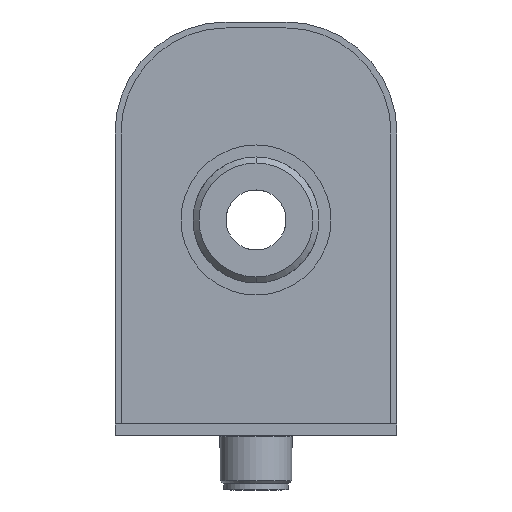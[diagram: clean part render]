
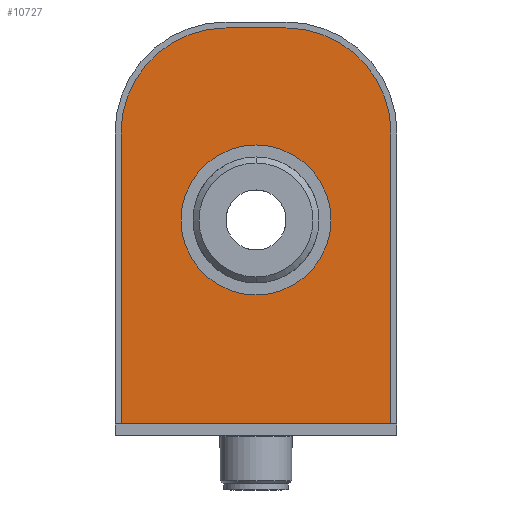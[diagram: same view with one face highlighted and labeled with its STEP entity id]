
A CAD part, left-side view. The second image highlights one B-rep face of the part: STEP entity #10727.
In plain terms, the highlighted planar face has unit normal (-1, 0, 0) as drawn and (0, 0, -1) by its records, which use the part's own axes.
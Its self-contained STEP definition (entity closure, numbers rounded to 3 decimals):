
#36 = EDGE_LOOP ( 'NONE', ( #11896, #467, #14205, #10215, #10618, #1742 ) ) ;
#135 = DIRECTION ( 'NONE',  ( 1., 0., 0. ) ) ;
#261 = AXIS2_PLACEMENT_3D ( 'NONE', #14334, #7231, #135 ) ;
#264 = VECTOR ( 'NONE', #10334, 1000. ) ;
#293 = EDGE_CURVE ( 'NONE', #1329, #11575, #7627, .T. ) ;
#467 = ORIENTED_EDGE ( 'NONE', *, *, #5587, .F. ) ;
#1170 = EDGE_CURVE ( 'NONE', #12105, #12202, #14936, .T. ) ;
#1329 = VERTEX_POINT ( 'NONE', #6792 ) ;
#1627 = DIRECTION ( 'NONE',  ( 0., 0., 1. ) ) ;
#1742 = ORIENTED_EDGE ( 'NONE', *, *, #3532, .F. ) ;
#2235 = EDGE_CURVE ( 'NONE', #12202, #6216, #8997, .T. ) ;
#2442 = DIRECTION ( 'NONE',  ( 0., 0., 1. ) ) ;
#2602 = EDGE_CURVE ( 'NONE', #11575, #1329, #7683, .T. ) ;
#3040 = CIRCLE ( 'NONE', #261, 17.5 ) ;
#3066 = CARTESIAN_POINT ( 'NONE',  ( -17.5, 66., 0. ) ) ;
#3083 = DIRECTION ( 'NONE',  ( 0., 0., 1. ) ) ;
#3210 = CARTESIAN_POINT ( 'NONE',  ( 27.5, 66., 0. ) ) ;
#3374 = AXIS2_PLACEMENT_3D ( 'NONE', #8746, #1627, #9954 ) ;
#3532 = EDGE_CURVE ( 'NONE', #8190, #14489, #7644, .T. ) ;
#3649 = CARTESIAN_POINT ( 'NONE',  ( 27.5, 17.5, 0. ) ) ;
#3982 = DIRECTION ( 'NONE',  ( 1., 0., 0. ) ) ;
#4495 = CARTESIAN_POINT ( 'NONE',  ( 5., 32., 0. ) ) ;
#4875 = VECTOR ( 'NONE', #3982, 1000. ) ;
#5125 = CARTESIAN_POINT ( 'NONE',  ( 0., 0., 0. ) ) ;
#5442 = CARTESIAN_POINT ( 'NONE',  ( -17.5, 66., 0. ) ) ;
#5587 = EDGE_CURVE ( 'NONE', #6216, #14123, #6886, .T. ) ;
#5701 = CARTESIAN_POINT ( 'NONE',  ( 27.5, 17.5, 0. ) ) ;
#5864 = VECTOR ( 'NONE', #9314, 1000. ) ;
#6216 = VERTEX_POINT ( 'NONE', #5442 ) ;
#6644 = CARTESIAN_POINT ( 'NONE',  ( 10., 0., 0. ) ) ;
#6792 = CARTESIAN_POINT ( 'NONE',  ( 16.85, 32., 0. ) ) ;
#6819 = CIRCLE ( 'NONE', #8453, 17.5 ) ;
#6886 = LINE ( 'NONE', #3066, #10037 ) ;
#7231 = DIRECTION ( 'NONE',  ( 0., 0., 1. ) ) ;
#7561 = EDGE_CURVE ( 'NONE', #14489, #12105, #3040, .T. ) ;
#7627 = CIRCLE ( 'NONE', #9197, 11.85 ) ;
#7644 = LINE ( 'NONE', #5125, #4875 ) ;
#7683 = CIRCLE ( 'NONE', #3374, 11.85 ) ;
#7690 = CARTESIAN_POINT ( 'NONE',  ( 27.5, 66., 0. ) ) ;
#8190 = VERTEX_POINT ( 'NONE', #13327 ) ;
#8453 = AXIS2_PLACEMENT_3D ( 'NONE', #10196, #3083, #11380 ) ;
#8746 = CARTESIAN_POINT ( 'NONE',  ( 5., 32., 0. ) ) ;
#8992 = DIRECTION ( 'NONE',  ( 0., -1., 0. ) ) ;
#8997 = LINE ( 'NONE', #3210, #264 ) ;
#9197 = AXIS2_PLACEMENT_3D ( 'NONE', #4495, #11586, #12833 ) ;
#9314 = DIRECTION ( 'NONE',  ( 0., 1., 0. ) ) ;
#9582 = PLANE ( 'NONE',  #10544 ) ;
#9954 = DIRECTION ( 'NONE',  ( 1., 0., 0. ) ) ;
#10037 = VECTOR ( 'NONE', #8992, 1000. ) ;
#10196 = CARTESIAN_POINT ( 'NONE',  ( 0., 17.5, 0. ) ) ;
#10215 = ORIENTED_EDGE ( 'NONE', *, *, #1170, .F. ) ;
#10334 = DIRECTION ( 'NONE',  ( -1., 0., 0. ) ) ;
#10482 = EDGE_CURVE ( 'NONE', #14123, #8190, #6819, .T. ) ;
#10544 = AXIS2_PLACEMENT_3D ( 'NONE', #14272, #2442, #10749 ) ;
#10618 = ORIENTED_EDGE ( 'NONE', *, *, #7561, .F. ) ;
#10698 = CARTESIAN_POINT ( 'NONE',  ( -17.5, 17.5, 0. ) ) ;
#10727 = ADVANCED_FACE ( 'NONE', ( #11804, #14221 ), #9582, .F. ) ;
#10749 = DIRECTION ( 'NONE',  ( 1., 0., 0. ) ) ;
#10957 = CARTESIAN_POINT ( 'NONE',  ( -6.85, 32., 0. ) ) ;
#11380 = DIRECTION ( 'NONE',  ( 1., 0., 0. ) ) ;
#11575 = VERTEX_POINT ( 'NONE', #10957 ) ;
#11586 = DIRECTION ( 'NONE',  ( 0., 0., 1. ) ) ;
#11804 = FACE_OUTER_BOUND ( 'NONE', #36, .T. ) ;
#11896 = ORIENTED_EDGE ( 'NONE', *, *, #10482, .F. ) ;
#12105 = VERTEX_POINT ( 'NONE', #3649 ) ;
#12202 = VERTEX_POINT ( 'NONE', #7690 ) ;
#12366 = ORIENTED_EDGE ( 'NONE', *, *, #293, .T. ) ;
#12606 = EDGE_LOOP ( 'NONE', ( #12798, #12366 ) ) ;
#12798 = ORIENTED_EDGE ( 'NONE', *, *, #2602, .T. ) ;
#12833 = DIRECTION ( 'NONE',  ( 1., 0., 0. ) ) ;
#13327 = CARTESIAN_POINT ( 'NONE',  ( 0., 0., 0. ) ) ;
#14123 = VERTEX_POINT ( 'NONE', #10698 ) ;
#14205 = ORIENTED_EDGE ( 'NONE', *, *, #2235, .F. ) ;
#14221 = FACE_BOUND ( 'NONE', #12606, .T. ) ;
#14272 = CARTESIAN_POINT ( 'NONE',  ( 0., 17.5, 0. ) ) ;
#14334 = CARTESIAN_POINT ( 'NONE',  ( 10., 17.5, 0. ) ) ;
#14489 = VERTEX_POINT ( 'NONE', #6644 ) ;
#14936 = LINE ( 'NONE', #5701, #5864 ) ;
